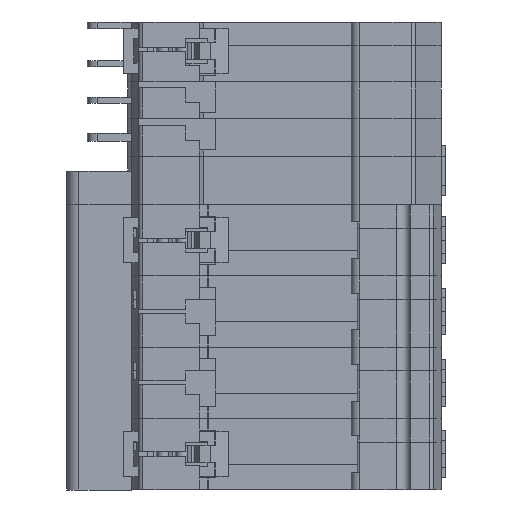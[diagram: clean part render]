
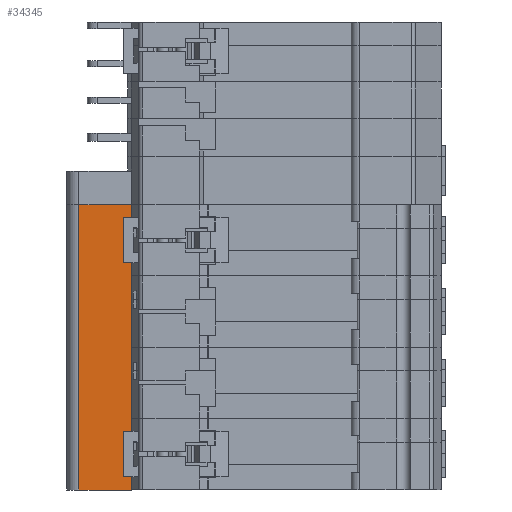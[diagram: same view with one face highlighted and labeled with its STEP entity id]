
A CAD part, front view. The second image highlights one B-rep face of the part: STEP entity #34345.
In plain terms, the highlighted planar face has unit normal (0, -1, 0) as drawn and (-1, 0, 0) by its records, which use the part's own axes.
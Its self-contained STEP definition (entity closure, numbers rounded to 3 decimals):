
#1235 = LINE ( 'NONE', #18397, #31523 ) ;
#2210 = LINE ( 'NONE', #26315, #37294 ) ;
#3355 = VERTEX_POINT ( 'NONE', #40757 ) ;
#5706 = DIRECTION ( 'NONE',  ( 1., 0., 0. ) ) ;
#6392 = EDGE_CURVE ( 'NONE', #29068, #32907, #12346, .T. ) ;
#7821 = EDGE_CURVE ( 'NONE', #3355, #29068, #2210, .T. ) ;
#8189 = CARTESIAN_POINT ( 'NONE',  ( -12.5, 0., 0. ) ) ;
#9370 = DIRECTION ( 'NONE',  ( 0., 1., 0. ) ) ;
#11975 = ORIENTED_EDGE ( 'NONE', *, *, #6392, .T. ) ;
#12346 = LINE ( 'NONE', #24044, #34140 ) ;
#12876 = EDGE_LOOP ( 'NONE', ( #41564, #11975, #21996, #30218 ) ) ;
#15903 = DIRECTION ( 'NONE',  ( 0., 1., 0. ) ) ;
#17401 = CARTESIAN_POINT ( 'NONE',  ( -12.5, 16., 0. ) ) ;
#18397 = CARTESIAN_POINT ( 'NONE',  ( -12.5, 0., 77.9 ) ) ;
#21364 = EDGE_CURVE ( 'NONE', #32907, #33698, #28355, .T. ) ;
#21996 = ORIENTED_EDGE ( 'NONE', *, *, #21364, .T. ) ;
#22005 = VECTOR ( 'NONE', #24706, 1000. ) ;
#22165 = CARTESIAN_POINT ( 'NONE',  ( -12.5, 13., 70.9 ) ) ;
#23280 = AXIS2_PLACEMENT_3D ( 'NONE', #26053, #5706, #15903 ) ;
#24044 = CARTESIAN_POINT ( 'NONE',  ( -12.5, 13., 77.9 ) ) ;
#24706 = DIRECTION ( 'NONE',  ( 0., -1., 0. ) ) ;
#26053 = CARTESIAN_POINT ( 'NONE',  ( -12.5, 16., 77.9 ) ) ;
#26315 = CARTESIAN_POINT ( 'NONE',  ( -12.5, 16., 70.9 ) ) ;
#28355 = LINE ( 'NONE', #17401, #22005 ) ;
#28945 = FACE_OUTER_BOUND ( 'NONE', #12876, .T. ) ;
#29068 = VERTEX_POINT ( 'NONE', #22165 ) ;
#29651 = EDGE_CURVE ( 'NONE', #3355, #33698, #1235, .T. ) ;
#30112 = CARTESIAN_POINT ( 'NONE',  ( -12.5, 13., 0. ) ) ;
#30218 = ORIENTED_EDGE ( 'NONE', *, *, #29651, .F. ) ;
#31523 = VECTOR ( 'NONE', #38320, 1000. ) ;
#32879 = PLANE ( 'NONE',  #23280 ) ;
#32907 = VERTEX_POINT ( 'NONE', #30112 ) ;
#33698 = VERTEX_POINT ( 'NONE', #8189 ) ;
#33898 = DIRECTION ( 'NONE',  ( 0., 0., -1. ) ) ;
#34140 = VECTOR ( 'NONE', #33898, 1000. ) ;
#34345 = ADVANCED_FACE ( 'NONE', ( #28945 ), #32879, .F. ) ;
#37294 = VECTOR ( 'NONE', #9370, 1000. ) ;
#38320 = DIRECTION ( 'NONE',  ( 0., 0., -1. ) ) ;
#40757 = CARTESIAN_POINT ( 'NONE',  ( -12.5, 0., 70.9 ) ) ;
#41564 = ORIENTED_EDGE ( 'NONE', *, *, #7821, .T. ) ;
